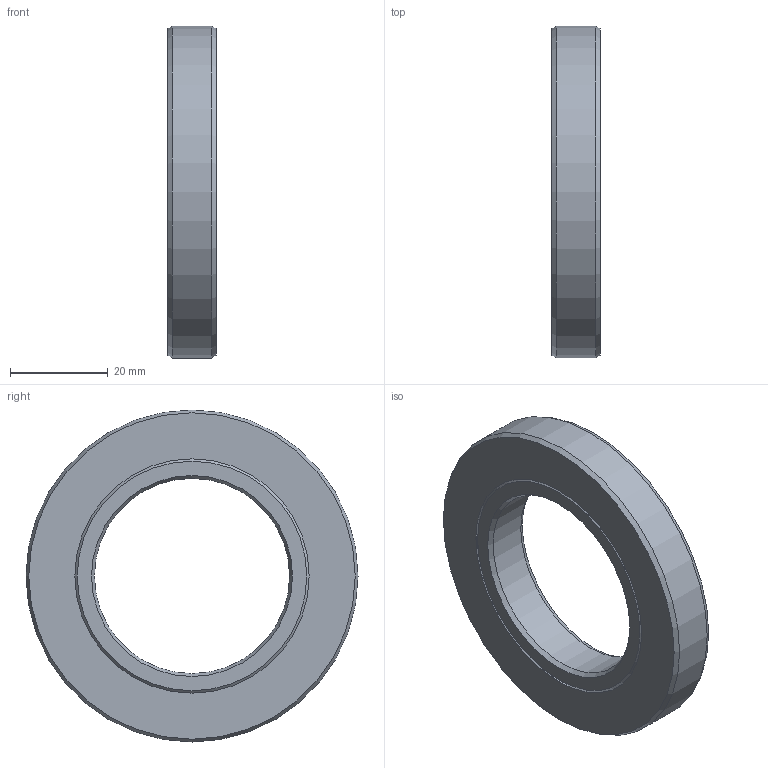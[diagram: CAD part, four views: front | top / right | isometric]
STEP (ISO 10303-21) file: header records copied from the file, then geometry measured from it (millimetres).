
FILE_DESCRIPTION(/* description */ (''),/* implementation_level */ '2;1');
FILE_NAME(/* name */ '301845 SA 40x68x10.stp',/* time_stamp */ '2016-12-16T15:20:01+01:00',/* author */ (''),/* organization */ (''),/* preprocessor_version */ 'ST-DEVELOPER v15',/* originating_system */ 'SIEMENS PLM Software NX 8.5',/* authorisation */ '');
FILE_SCHEMA (('CONFIG_CONTROL_DESIGN'));
Length unit declared in the file: millimetre
Products named in the file (1): ATE0000144_01
Bounding box: 10 x 68 x 68 mm (x, y, z)
Volume: 22585.1 mm3; surface area: 12144.6 mm2
Topology: 2 solids, 2 shells, 18 faces, 37 edges, 23 vertices
Faces by surface type: cone 10, plane 5, cylinder 3
Full cylindrical faces by diameter (mm): 40 x1, 68 x1
Entity records: 492 total; most frequent: DIRECTION 76, CARTESIAN_POINT 74, ORIENTED_EDGE 46, AXIS2_PLACEMENT_3D 38, EDGE_LOOP 33, FACE_BOUND 30, EDGE_CURVE 23, VERTEX_POINT 20
